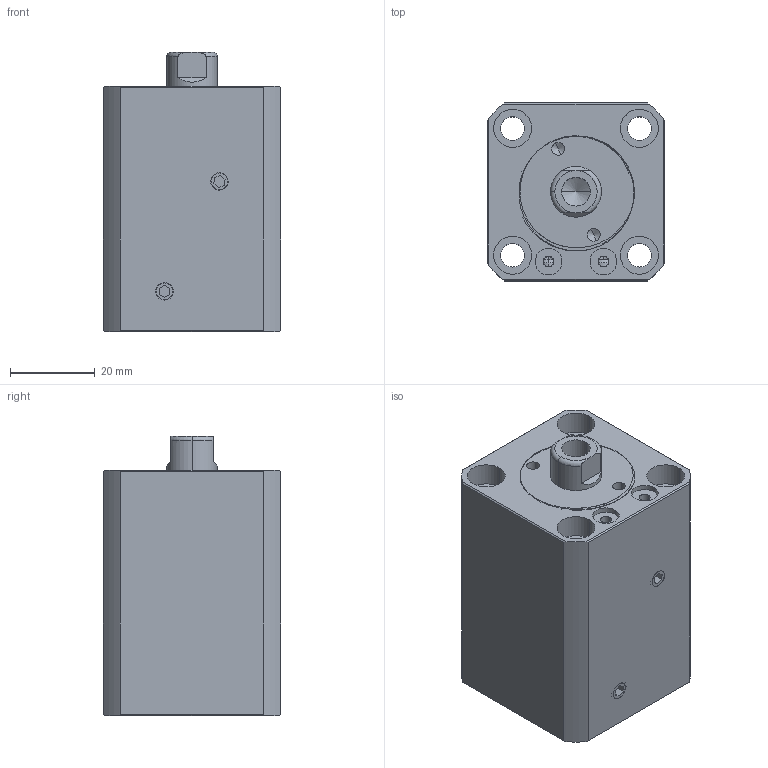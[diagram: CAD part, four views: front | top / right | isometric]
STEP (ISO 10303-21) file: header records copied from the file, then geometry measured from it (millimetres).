
FILE_DESCRIPTION (( 'STEP AP214' ), '1' );
FILE_NAME ('chtb-sdma20x15n_asm.STEP', '2018-05-18T03:23:30', ( '' ), ( '' ), 'SwSTEP 2.0', 'SolidWorks 2016', '' );
FILE_SCHEMA (( 'AUTOMOTIVE_DESIGN' ));
Length unit declared in the file: millimetre
Products named in the file (5): socket set screw flat point_iso_ISO 4026 - M5 x 5-N; QG_3; CHTB-SDMA20X15NHSG; CHTB-SDMA20X15NBT; chtb-sdma20x15n_asm
Assembly tree (5 placements, depth 2):
  chtb-sdma20x15n_asm
    CHTB-SDMA20X15NBT
    CHTB-SDMA20X15NHSG
    QG_3
    socket set screw flat point_iso_ISO 4026 - M5 x 5-N  x2
Bounding box: 42 x 42 x 66 mm (x, y, z)
Volume: 88479.1 mm3; surface area: 29895.6 mm2
Topology: 5 solids, 5 shells, 232 faces, 602 edges, 396 vertices
Faces by surface type: cylinder 111, plane 61, torus 25, bspline 21, cone 14
Entity records: 12042 total; most frequent: CARTESIAN_POINT 6742, ORIENTED_EDGE 1128, DIRECTION 1000, EDGE_CURVE 564, AXIS2_PLACEMENT_3D 415, VERTEX_POINT 376, EDGE_LOOP 256, FACE_OUTER_BOUND 217
